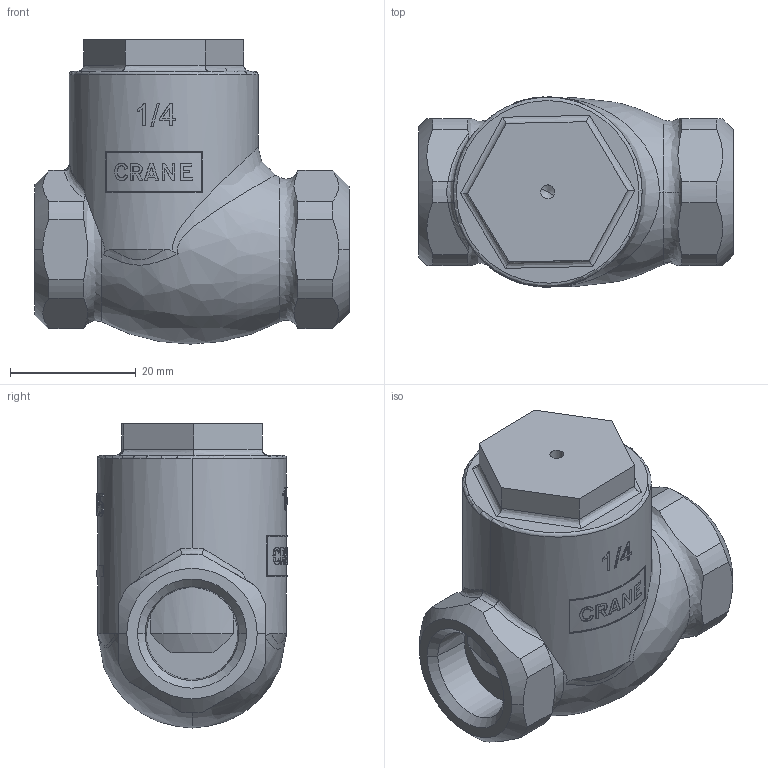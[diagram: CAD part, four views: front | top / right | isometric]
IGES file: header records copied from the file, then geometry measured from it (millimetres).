
Global section: file name: No Iges File Name specified; native system: AutoDesk Inventor R12.0; preprocessor: AutoDesk Inventor Iges Exporter R12.0; date: 20110303.094503; units: millimetre
Bounding box: 50 x 30.2 x 48.3 mm (x, y, z)
Volume: 32423.3 mm3; surface area: 9835.5 mm2
Topology: 1 solids, 2 shells, 404 faces, 1129 edges, 750 vertices
Faces by surface type: bspline 212, plane 125, cylinder 34, revolution 23, cone 8, torus 2
